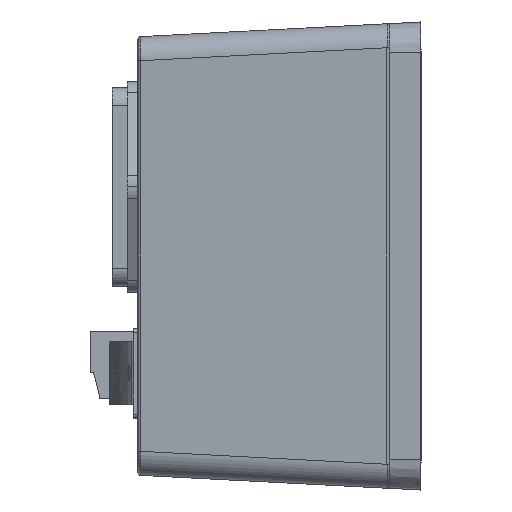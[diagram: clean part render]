
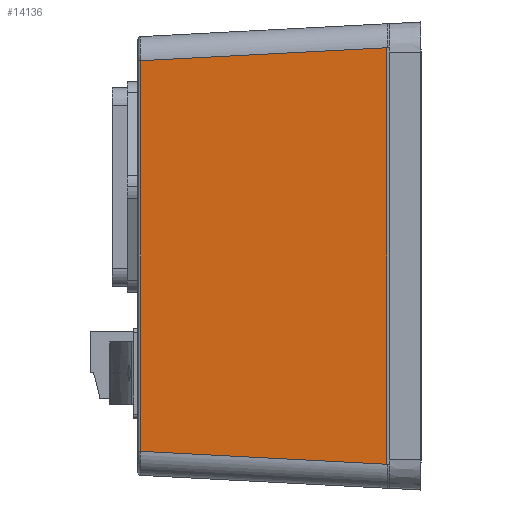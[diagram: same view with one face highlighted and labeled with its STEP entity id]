
A CAD part, left-side view. The second image highlights one B-rep face of the part: STEP entity #14136.
In plain terms, the highlighted planar face has unit normal (-0.999, 0.052, 0).
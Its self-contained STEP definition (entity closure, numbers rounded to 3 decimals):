
#1033 = ORIENTED_EDGE ( 'NONE', *, *, #30313, .T. ) ;
#1709 = LINE ( 'NONE', #57242, #11174 ) ;
#7522 = ORIENTED_EDGE ( 'NONE', *, *, #14520, .T. ) ;
#10102 = EDGE_CURVE ( 'NONE', #30262, #53393, #18458, .T. ) ;
#11174 = VECTOR ( 'NONE', #33962, 1000. ) ;
#11306 = DIRECTION ( 'NONE',  ( -0.052, -0.997, -0.052 ) ) ;
#11459 = FACE_OUTER_BOUND ( 'NONE', #13119, .T. ) ;
#12117 = CARTESIAN_POINT ( 'NONE',  ( -71.696, 47., 36.446 ) ) ;
#13119 = EDGE_LOOP ( 'NONE', ( #47836, #1033, #42466, #7522 ) ) ;
#14136 = ADVANCED_FACE ( 'NONE', ( #11459 ), #54248, .T. ) ;
#14520 = EDGE_CURVE ( 'NONE', #59221, #30262, #1709, .T. ) ;
#14641 = CARTESIAN_POINT ( 'NONE',  ( -71.707, 46.792, 32.463 ) ) ;
#18458 = LINE ( 'NONE', #53641, #41877 ) ;
#18944 = CARTESIAN_POINT ( 'NONE',  ( -71.721, 46.526, 32.477 ) ) ;
#19379 = VECTOR ( 'NONE', #35954, 1000. ) ;
#26254 = DIRECTION ( 'NONE',  ( -0.999, 0.052, 0. ) ) ;
#26355 = CARTESIAN_POINT ( 'NONE',  ( -71.721, 46.526, -32.477 ) ) ;
#28970 = VECTOR ( 'NONE', #47547, 1000. ) ;
#30262 = VERTEX_POINT ( 'NONE', #26355 ) ;
#30313 = EDGE_CURVE ( 'NONE', #53393, #51760, #34763, .T. ) ;
#33962 = DIRECTION ( 'NONE',  ( 0., 0., -1. ) ) ;
#34763 = LINE ( 'NONE', #50006, #19379 ) ;
#35954 = DIRECTION ( 'NONE',  ( 0., 0., 1. ) ) ;
#41877 = VECTOR ( 'NONE', #11306, 1000. ) ;
#42466 = ORIENTED_EDGE ( 'NONE', *, *, #55882, .T. ) ;
#47547 = DIRECTION ( 'NONE',  ( 0.052, 0.997, -0.052 ) ) ;
#47836 = ORIENTED_EDGE ( 'NONE', *, *, #10102, .T. ) ;
#50006 = CARTESIAN_POINT ( 'NONE',  ( -73.866, 5.595, 36.446 ) ) ;
#50025 = CARTESIAN_POINT ( 'NONE',  ( -73.866, 5.595, -34.622 ) ) ;
#51760 = VERTEX_POINT ( 'NONE', #60247 ) ;
#53393 = VERTEX_POINT ( 'NONE', #50025 ) ;
#53641 = CARTESIAN_POINT ( 'NONE',  ( -71.508, 50.591, -32.264 ) ) ;
#53811 = LINE ( 'NONE', #14641, #28970 ) ;
#54248 = PLANE ( 'NONE',  #57245 ) ;
#55882 = EDGE_CURVE ( 'NONE', #51760, #59221, #53811, .T. ) ;
#57242 = CARTESIAN_POINT ( 'NONE',  ( -71.721, 46.526, 36.446 ) ) ;
#57245 = AXIS2_PLACEMENT_3D ( 'NONE', #12117, #26254, #58923 ) ;
#58923 = DIRECTION ( 'NONE',  ( 0.052, 0.999, 0. ) ) ;
#59221 = VERTEX_POINT ( 'NONE', #18944 ) ;
#60247 = CARTESIAN_POINT ( 'NONE',  ( -73.866, 5.595, 34.622 ) ) ;
